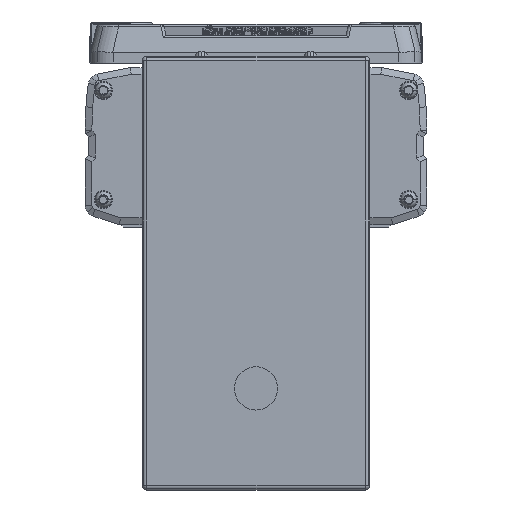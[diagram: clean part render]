
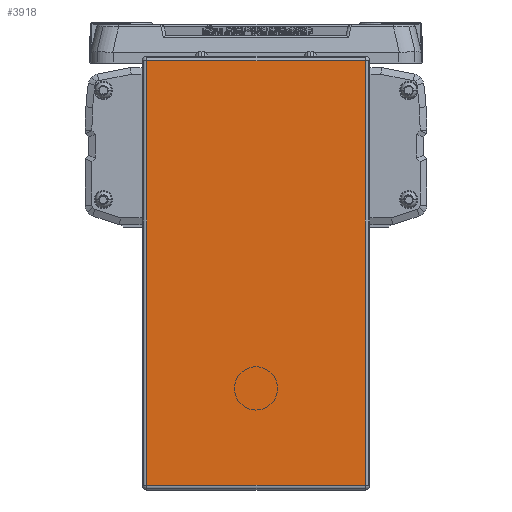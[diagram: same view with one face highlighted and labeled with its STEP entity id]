
A CAD part, left-side view. The second image highlights one B-rep face of the part: STEP entity #3918.
In plain terms, the highlighted planar face has unit normal (-1, 0, 0).
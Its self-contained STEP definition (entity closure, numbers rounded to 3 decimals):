
#3918=ADVANCED_FACE('',(#9594),#9595,.T.);
#9594=FACE_OUTER_BOUND('',#17805,.T.);
#9595=PLANE('',#17806);
#17805=EDGE_LOOP('',(#29820,#29821,#29822,#29823));
#17806=AXIS2_PLACEMENT_3D('',#29824,#29825,#29826);
#29820=ORIENTED_EDGE('',*,*,#49540,.F.);
#29821=ORIENTED_EDGE('',*,*,#49541,.F.);
#29822=ORIENTED_EDGE('',*,*,#49542,.F.);
#29823=ORIENTED_EDGE('',*,*,#49543,.F.);
#29824=CARTESIAN_POINT('',(-45.,0.,-64.2));
#29825=DIRECTION('',(-1.0,0.,0.));
#29826=DIRECTION('',(0.,1.0,0.));
#49540=EDGE_CURVE('',#60311,#60312,#60313,.T.);
#49541=EDGE_CURVE('',#60314,#60311,#60315,.T.);
#49542=EDGE_CURVE('',#60316,#60314,#60317,.T.);
#49543=EDGE_CURVE('',#60312,#60316,#60318,.T.);
#60311=VERTEX_POINT('',#74922);
#60312=VERTEX_POINT('',#74923);
#60313=LINE('',#74924,#74925);
#60314=VERTEX_POINT('',#74926);
#60315=LINE('',#74927,#74928);
#60316=VERTEX_POINT('',#74929);
#60317=LINE('',#74930,#74931);
#60318=LINE('',#74932,#74933);
#74922=CARTESIAN_POINT('',(-45.,48.,29.));
#74923=CARTESIAN_POINT('',(-45.,-48.,29.));
#74924=CARTESIAN_POINT('',(-45.,0.,29.));
#74925=VECTOR('',#90422,10.0);
#74926=CARTESIAN_POINT('',(-45.,48.,-157.4));
#74927=CARTESIAN_POINT('',(-45.,48.,-64.2));
#74928=VECTOR('',#90423,10.0);
#74929=CARTESIAN_POINT('',(-45.,-48.,-157.4));
#74930=CARTESIAN_POINT('',(-45.,0.,-157.4));
#74931=VECTOR('',#90424,10.0);
#74932=CARTESIAN_POINT('',(-45.,-48.,-64.2));
#74933=VECTOR('',#90425,10.0);
#90422=DIRECTION('',(0.0,-1.0,0.));
#90423=DIRECTION('',(0.,0.,1.0));
#90424=DIRECTION('',(0.0,1.0,0.));
#90425=DIRECTION('',(0.,0.,-1.0));
